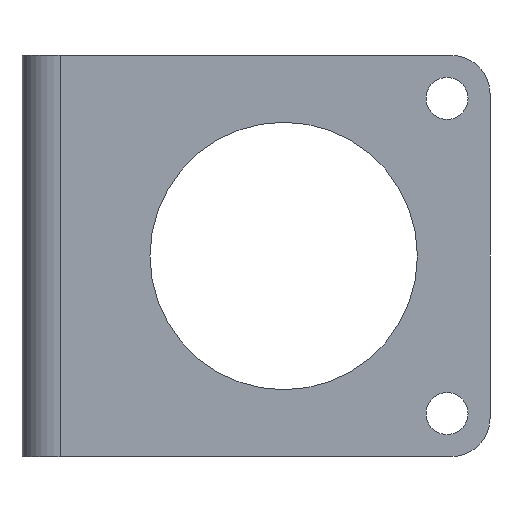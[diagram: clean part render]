
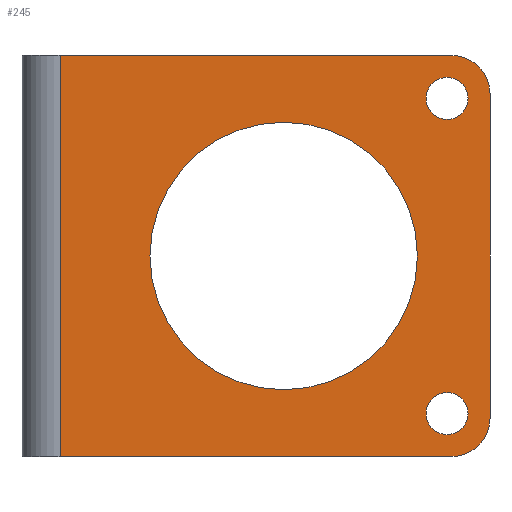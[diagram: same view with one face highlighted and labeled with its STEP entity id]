
A CAD part, front view. The second image highlights one B-rep face of the part: STEP entity #245.
In plain terms, the highlighted planar face has unit normal (0, -1, 0).
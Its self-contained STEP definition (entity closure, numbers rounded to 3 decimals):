
#15=FACE_BOUND('',#45,.T.);
#16=FACE_BOUND('',#46,.T.);
#17=FACE_BOUND('',#47,.T.);
#22=PLANE('',#275);
#30=FACE_OUTER_BOUND('',#44,.T.);
#44=EDGE_LOOP('',(#175,#176,#177,#178,#179,#180));
#45=EDGE_LOOP('',(#181));
#46=EDGE_LOOP('',(#182));
#47=EDGE_LOOP('',(#183));
#66=LINE('',#389,#85);
#67=LINE('',#393,#86);
#68=LINE('',#395,#87);
#69=LINE('',#396,#88);
#85=VECTOR('',#312,10.);
#86=VECTOR('',#315,10.);
#87=VECTOR('',#316,10.);
#88=VECTOR('',#317,10.);
#102=CIRCLE('',#273,2.);
#104=CIRCLE('',#276,2.);
#105=CIRCLE('',#277,1.1);
#106=CIRCLE('',#278,1.1);
#107=CIRCLE('',#279,7.);
#116=VERTEX_POINT('',#379);
#117=VERTEX_POINT('',#380);
#120=VERTEX_POINT('',#388);
#121=VERTEX_POINT('',#390);
#122=VERTEX_POINT('',#392);
#123=VERTEX_POINT('',#394);
#124=VERTEX_POINT('',#397);
#125=VERTEX_POINT('',#399);
#126=VERTEX_POINT('',#401);
#138=EDGE_CURVE('',#116,#117,#102,.T.);
#142=EDGE_CURVE('',#116,#120,#66,.F.);
#143=EDGE_CURVE('',#121,#120,#104,.T.);
#144=EDGE_CURVE('',#121,#122,#67,.F.);
#145=EDGE_CURVE('',#123,#122,#68,.T.);
#146=EDGE_CURVE('',#123,#117,#69,.F.);
#147=EDGE_CURVE('',#124,#124,#105,.T.);
#148=EDGE_CURVE('',#125,#125,#106,.T.);
#149=EDGE_CURVE('',#126,#126,#107,.T.);
#175=ORIENTED_EDGE('',*,*,#138,.F.);
#176=ORIENTED_EDGE('',*,*,#142,.T.);
#177=ORIENTED_EDGE('',*,*,#143,.F.);
#178=ORIENTED_EDGE('',*,*,#144,.T.);
#179=ORIENTED_EDGE('',*,*,#145,.F.);
#180=ORIENTED_EDGE('',*,*,#146,.T.);
#181=ORIENTED_EDGE('',*,*,#147,.T.);
#182=ORIENTED_EDGE('',*,*,#148,.T.);
#183=ORIENTED_EDGE('',*,*,#149,.T.);
#245=ADVANCED_FACE('',(#30,#15,#16,#17),#22,.T.);
#273=AXIS2_PLACEMENT_3D('',#381,#304,#305);
#275=AXIS2_PLACEMENT_3D('',#387,#310,#311);
#276=AXIS2_PLACEMENT_3D('',#391,#313,#314);
#277=AXIS2_PLACEMENT_3D('',#398,#318,#319);
#278=AXIS2_PLACEMENT_3D('',#400,#320,#321);
#279=AXIS2_PLACEMENT_3D('',#402,#322,#323);
#304=DIRECTION('center_axis',(0.,1.,0.));
#305=DIRECTION('ref_axis',(0.707,0.,-0.707));
#310=DIRECTION('center_axis',(0.,-1.,0.));
#311=DIRECTION('ref_axis',(1.,0.,0.));
#312=DIRECTION('',(0.,0.,-1.));
#313=DIRECTION('center_axis',(0.,1.,0.));
#314=DIRECTION('ref_axis',(0.707,0.,0.707));
#315=DIRECTION('',(1.,0.,0.));
#316=DIRECTION('',(0.,0.,1.));
#317=DIRECTION('',(-1.,0.,0.));
#318=DIRECTION('center_axis',(0.,1.,0.));
#319=DIRECTION('ref_axis',(0.,0.,-1.));
#320=DIRECTION('center_axis',(0.,1.,0.));
#321=DIRECTION('ref_axis',(0.,0.,-1.));
#322=DIRECTION('center_axis',(0.,1.,0.));
#323=DIRECTION('ref_axis',(1.,0.,0.));
#379=CARTESIAN_POINT('',(10.8,-3.,-8.5));
#380=CARTESIAN_POINT('',(8.8,-3.,-10.5));
#381=CARTESIAN_POINT('Origin',(8.8,-3.,-8.5));
#387=CARTESIAN_POINT('Origin',(-11.2,-3.,8.5));
#388=CARTESIAN_POINT('',(10.8,-3.,8.5));
#389=CARTESIAN_POINT('',(10.8,-3.,-0.75));
#390=CARTESIAN_POINT('',(8.8,-3.,10.5));
#391=CARTESIAN_POINT('Origin',(8.8,-3.,8.5));
#392=CARTESIAN_POINT('',(-11.7,-3.,10.5));
#393=CARTESIAN_POINT('',(-0.45,-3.,10.5));
#394=CARTESIAN_POINT('',(-11.7,-3.,-10.5));
#395=CARTESIAN_POINT('',(-11.7,-3.,9.25));
#396=CARTESIAN_POINT('',(-12.45,-3.,-10.5));
#397=CARTESIAN_POINT('',(8.55,-3.,9.35));
#398=CARTESIAN_POINT('Origin',(8.55,-3.,8.25));
#399=CARTESIAN_POINT('',(8.55,-3.,-7.15));
#400=CARTESIAN_POINT('Origin',(8.55,-3.,-8.25));
#401=CARTESIAN_POINT('',(-7.,-3.,0.));
#402=CARTESIAN_POINT('Origin',(0.,-3.,0.));
